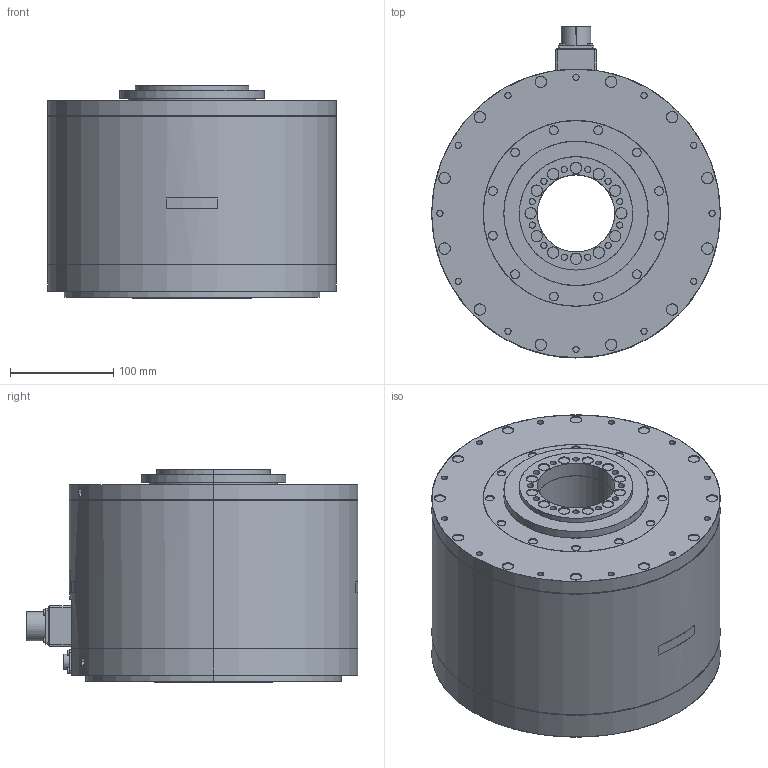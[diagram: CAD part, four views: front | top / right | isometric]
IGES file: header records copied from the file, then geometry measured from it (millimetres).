
Start section: SolidWorks IGES file using analytic representation for surfaces
Bounding box: 280 x 322.1 x 207.5 mm (x, y, z)
Surface area: 379685 mm2 (no closed solid volume)
Topology: 0 solids, 0 shells, 536 faces, 11928 edges, 11928 vertices
Faces by surface type: revolution 324, bspline 212
